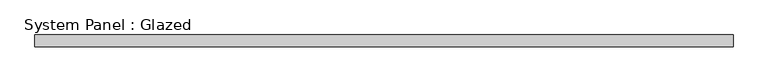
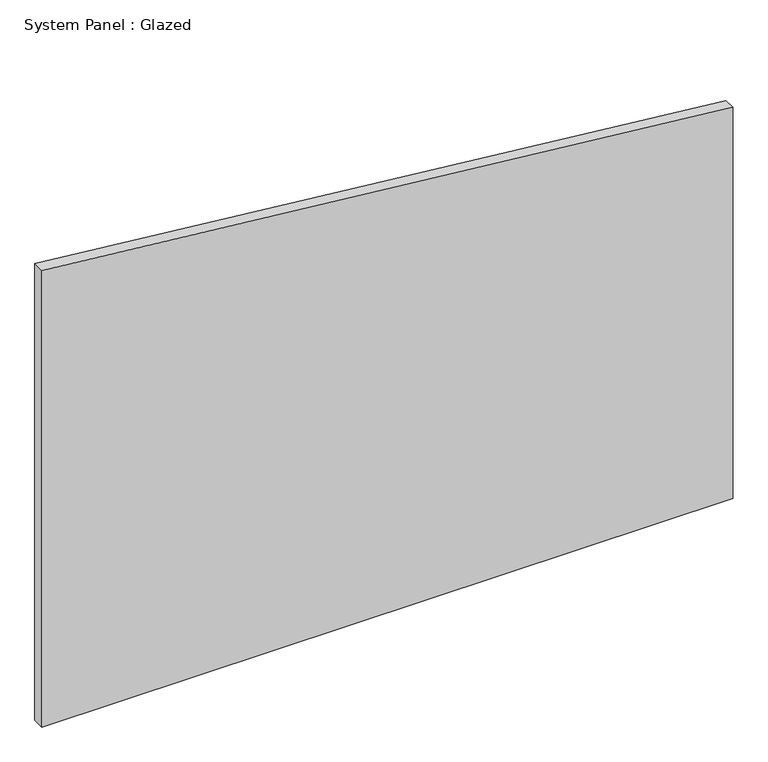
"""IFC4 building model written with IfcOpenShell, lengths in millimetres: plate geometry, System Panel : Glazed."""

import ifcopenshell
import ifcopenshell.guid

model = None  # the IFC model being written
_history = None  # IfcOwnerHistory: only IFC2X3 demands one
_inside = {}  # id of a spatial element -> (the spatial element, [elements in it])
_under = {}  # id of a project, library or spatial element -> (it, [spatial elements below it])
_declared = {}  # id of a project -> (the project, [libraries it declares])
_typed = {}  # id of a type object -> (the type object, [elements of that type])
_made_of = {}  # id of a material, layer set ... -> (it, [elements and type objects made of it])


def new_model(schema):
    """Start an empty IFC model of exactly this schema.

    Asked for "IFC4X3", IfcOpenShell would pick the latest addendum, in which some entities
    have other attributes; the version numbers below select the first issue.
    IFC2X3 requires an IfcOwnerHistory on every rooted entity: one is made here for all.
    """
    global model, _history
    if schema == "IFC4X3":
        model = ifcopenshell.file(schema_version=(4, 3, 0, 0))
    else:
        model = ifcopenshell.file(schema=schema)
    _inside.clear()
    _under.clear()
    _declared.clear()
    _typed.clear()
    _made_of.clear()
    _history = None
    if model.schema == "IFC2X3":
        org = make("IfcOrganization", Name="unknown")
        user = make(
            "IfcPersonAndOrganization",
            ThePerson=make("IfcPerson", FamilyName="unknown"),
            TheOrganization=org,
        )
        app = make(
            "IfcApplication",
            ApplicationDeveloper=org,
            Version="unknown",
            ApplicationFullName="unknown",
            ApplicationIdentifier="unknown",
        )
        _history = make(
            "IfcOwnerHistory",
            OwningUser=user,
            OwningApplication=app,
            ChangeAction="ADDED",
            CreationDate=0,
        )
    return model


def make(cls, **values):
    """One entity of the class cls with the attributes given. An attribute that is None is left unset."""
    return model.create_entity(
        cls, **{name: value for name, value in values.items() if value is not None}
    )


def rooted(cls, **values):
    """An entity with a GlobalId (a new one), such as an element, a storey or a relation."""
    return make(cls, GlobalId=ifcopenshell.guid.new(), OwnerHistory=_history, **values)


def si_unit(unit_type, name, prefix=None):
    """IfcSIUnit, for example si_unit("LENGTHUNIT", "METRE", prefix="MILLI")."""
    return make("IfcSIUnit", UnitType=unit_type, Prefix=prefix, Name=name)


def assignment(units):
    """IfcUnitAssignment: the units of a project."""
    return None if units is None else make("IfcUnitAssignment", Units=units)


def point(xyz):
    """IfcCartesianPoint."""
    return None if xyz is None else make("IfcCartesianPoint", Coordinates=xyz)


def direction(xyz):
    """IfcDirection."""
    return None if xyz is None else make("IfcDirection", DirectionRatios=xyz)


def frame(location, z_axis=None, x_axis=None):
    """IfcAxis2Placement3D, a coordinate frame: its origin and axes. An axis left out is left unset."""
    return make(
        "IfcAxis2Placement3D",
        Location=point(location),
        Axis=direction(z_axis),
        RefDirection=direction(x_axis),
    )


def origin():
    """The frame at (0, 0, 0) with its axes left unset."""
    return frame((0.0, 0.0, 0.0))


def place(relative_to, where):
    """IfcLocalPlacement: puts the frame where relative to a parent placement (None: the world)."""
    return make(
        "IfcLocalPlacement", PlacementRelTo=relative_to, RelativePlacement=where
    )


def context(
    kind, dimensions, precision=None, world=None, true_north=None, identifier=None
):
    """IfcGeometricRepresentationContext, for example the 3D "Model" context."""
    return make(
        "IfcGeometricRepresentationContext",
        ContextIdentifier=identifier,
        ContextType=kind,
        CoordinateSpaceDimension=dimensions,
        Precision=precision,
        WorldCoordinateSystem=world,
        TrueNorth=true_north,
    )


def project(units=None, contexts=None):
    """IfcProject with its units and contexts."""
    return rooted(
        "IfcProject",
        Name="project",
        RepresentationContexts=contexts,
        UnitsInContext=assignment(units),
    )


def spatial(cls, under=None, at=None, **own):
    """A site, building, storey or space (cls), placed at a placement, below another one or the project."""
    s = rooted(cls, ObjectPlacement=at, **own)
    if under is not None:
        _under.setdefault(under.id(), (under, []))[1].append(s)
    return s


def polyline(points):
    """IfcPolyline through the points."""
    return make("IfcPolyline", Points=[point(p) for p in points])


def outline(outer, holes=None, kind="AREA"):
    """IfcArbitraryClosedProfileDef: a profile drawn as a closed curve; with holes, ...WithVoids."""
    if holes is None:
        return make("IfcArbitraryClosedProfileDef", ProfileType=kind, OuterCurve=outer)
    return make(
        "IfcArbitraryProfileDefWithVoids",
        ProfileType=kind,
        OuterCurve=outer,
        InnerCurves=holes,
    )


def extrude(swept, where, along, depth):
    """IfcExtrudedAreaSolid: the profile swept, set in the frame where, extruded along a direction by depth."""
    return make(
        "IfcExtrudedAreaSolid",
        SweptArea=swept,
        Position=where,
        ExtrudedDirection=direction(along),
        Depth=depth,
    )


def shape(context_of_items, identifier, shape_type, items):
    """IfcShapeRepresentation: the items that make up one representation, for example the "Body"."""
    return make(
        "IfcShapeRepresentation",
        ContextOfItems=context_of_items,
        RepresentationIdentifier=identifier,
        RepresentationType=shape_type,
        Items=items,
    )


def source(mapping_origin, context_of_items, identifier, shape_type, items):
    """IfcRepresentationMap: a shape defined once, which mapped items show again and again."""
    return make(
        "IfcRepresentationMap",
        MappingOrigin=mapping_origin,
        MappedRepresentation=shape(context_of_items, identifier, shape_type, items),
    )


def transform(
    local_origin,
    x_axis=None,
    y_axis=None,
    z_axis=None,
    scale=None,
    scale2=None,
    scale3=None,
    uniform=True,
):
    """IfcCartesianTransformationOperator3D, or its non-uniform kind. x_axis, y_axis, z_axis: its Axis1, 2, 3."""
    if uniform:
        return make(
            "IfcCartesianTransformationOperator3D",
            Axis1=direction(x_axis),
            Axis2=direction(y_axis),
            LocalOrigin=point(local_origin),
            Scale=scale,
            Axis3=direction(z_axis),
        )
    return make(
        "IfcCartesianTransformationOperator3DnonUniform",
        Axis1=direction(x_axis),
        Axis2=direction(y_axis),
        LocalOrigin=point(local_origin),
        Scale=scale,
        Axis3=direction(z_axis),
        Scale2=scale2,
        Scale3=scale3,
    )


def mapped(mapping_source, mapping_target):
    """IfcMappedItem: shows the shape of a source again, moved by a transform."""
    return make(
        "IfcMappedItem", MappingSource=mapping_source, MappingTarget=mapping_target
    )


def made_of(thing, what):
    """Note that an element or type object is made of a material, layer set ...; save() writes the relation."""
    if what is not None:
        _made_of.setdefault(what.id(), (what, []))[1].append(thing)
    return thing


def element(
    cls,
    number,
    at=None,
    inside=None,
    cuts=None,
    type_object=None,
    material=None,
    context=None,
    identifier="Body",
    shape_type=None,
    held_by="IfcProductDefinitionShape",
    body=None,
    shapes=None,
    **own,
):
    """One element of the class cls, such as IfcWall. Its Tag is "e" and its number.

    at: its placement. inside: the storey or other place that contains it. cuts: it is an
    opening in that element (IfcRelVoidsElement). A single representation is given by context,
    identifier, shape_type and body (its items); several are given by shapes. held_by: the class
    of the entity that holds the representations. save() writes the other relations.
    """
    e = rooted(cls, Tag="e%d" % number, ObjectPlacement=at, **own)
    if body is not None:
        shapes = [shape(context, identifier, shape_type, body)]
    if shapes is not None:
        e.Representation = make(held_by, Representations=shapes)
    if inside is not None:
        _inside.setdefault(inside.id(), (inside, []))[1].append(e)
    if cuts is not None:
        rooted(
            "IfcRelVoidsElement", RelatingBuildingElement=cuts, RelatedOpeningElement=e
        )
    if type_object is not None:
        _typed.setdefault(type_object.id(), (type_object, []))[1].append(e)
    return made_of(e, material)


def aggregate(whole, parts):
    """IfcRelAggregates: a whole, such as a stair, and the parts it consists of."""
    return rooted("IfcRelAggregates", RelatingObject=whole, RelatedObjects=parts)


def save(model, path):
    """Write the relations noted so far, then the file.

    IfcRelAggregates (storeys below a building ...), IfcRelContainedInSpatialStructure (elements
    in a storey), IfcRelDefinesByType, IfcRelAssociatesMaterial and IfcRelDeclares: one each for
    every whole, place, type object, material and project.
    """
    for whole, parts in _under.values():
        aggregate(whole, parts)
    for where, things in _inside.values():
        rooted(
            "IfcRelContainedInSpatialStructure",
            RelatedElements=things,
            RelatingStructure=where,
        )
    for kind, things in _typed.values():
        rooted("IfcRelDefinesByType", RelatedObjects=things, RelatingType=kind)
    for what, things in _made_of.values():
        rooted("IfcRelAssociatesMaterial", RelatedObjects=things, RelatingMaterial=what)
    for by, libraries in _declared.values():
        rooted("IfcRelDeclares", RelatingContext=by, RelatedDefinitions=libraries)
    model.write(path)


def system_panel_glazed_7172db0f(model_context):
    return source(origin(), model_context, "Body", "SweptSolid", [
        extrude(outline(polyline([(0.0, -735.8695652), (0.0, 735.8695652), (880.2720882, 735.8695652), (1028.255067, -735.8695652), (0.0, -735.8695652)])), frame((0.0, 24.5, 0.0), z_axis=(0.0, 1.0, 0.0), x_axis=(0.0, 0.0, 1.0)), (0.0, 0.0, 1.0), 25.0),
    ])


if __name__ == "__main__":
    model = new_model("IFC4")
    model_context = context("Model", 3, world=origin())
    ifc_project = project(units=[si_unit("LENGTHUNIT", "METRE", prefix="MILLI")], contexts=[model_context])
    site = spatial("IfcSite", under=ifc_project)
    building = spatial("IfcBuilding", under=site)
    placement = place(None, origin())
    system_panel_glazed_shape = system_panel_glazed_7172db0f(model_context)
    element("IfcPlate", 1, ObjectType="System Panel : Glazed", at=placement, inside=building, context=model_context, shape_type="MappedRepresentation", body=[
        mapped(system_panel_glazed_shape, transform((0.0, 0.0, 0.0), x_axis=(1.0, 0.0, 0.0), y_axis=(0.0, 1.0, 0.0), z_axis=(0.0, 0.0, 1.0))),
    ])
    save(model, "model.ifc")
